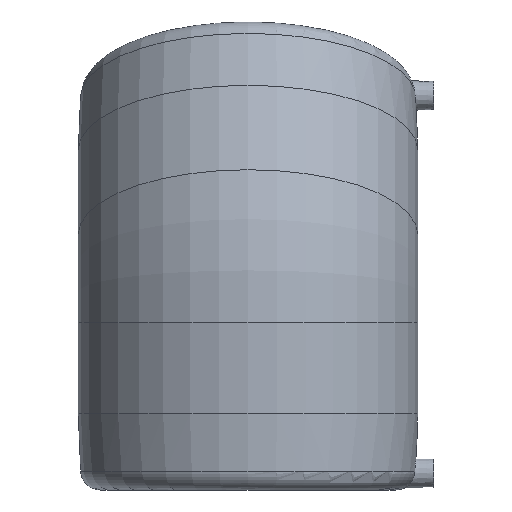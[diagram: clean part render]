
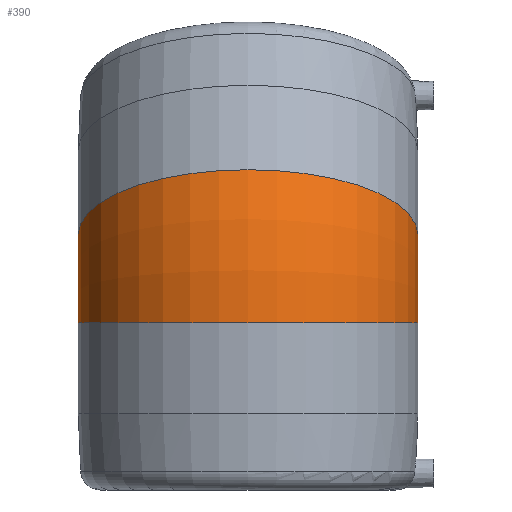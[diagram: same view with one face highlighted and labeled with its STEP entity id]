
A CAD part, left-side view. The second image highlights one B-rep face of the part: STEP entity #390.
In plain terms, the highlighted toroidal (fillet/blend) face has major radius 150.82 mm and minor radius 111.5 mm.
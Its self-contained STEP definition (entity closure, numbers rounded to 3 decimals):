
#23=TOROIDAL_SURFACE('',#458,150.82,111.5);
#111=ORIENTED_EDGE('',*,*,#159,.T.);
#112=ORIENTED_EDGE('',*,*,#161,.F.);
#159=EDGE_CURVE('',#196,#196,#224,.F.);
#161=EDGE_CURVE('',#198,#198,#226,.F.);
#196=VERTEX_POINT('',#751);
#198=VERTEX_POINT('',#757);
#224=CIRCLE('',#455,111.5);
#226=CIRCLE('',#459,111.5);
#277=EDGE_LOOP('',(#111));
#278=EDGE_LOOP('',(#112));
#338=FACE_BOUND('',#277,.T.);
#339=FACE_BOUND('',#278,.T.);
#390=ADVANCED_FACE('',(#338,#339),#23,.T.);
#455=AXIS2_PLACEMENT_3D('',#750,#562,#563);
#458=AXIS2_PLACEMENT_3D('',#755,#568,#569);
#459=AXIS2_PLACEMENT_3D('',#756,#570,#571);
#562=DIRECTION('',(0.,0.,-1.));
#563=DIRECTION('',(1.,0.,0.));
#568=DIRECTION('',(0.,1.,0.));
#569=DIRECTION('',(0.,0.,1.));
#570=DIRECTION('',(-0.383,0.,-0.924));
#571=DIRECTION('',(0.924,0.,-0.383));
#750=CARTESIAN_POINT('',(0.,0.,-30.));
#751=CARTESIAN_POINT('',(111.5,0.,-30.));
#755=CARTESIAN_POINT('',(150.82,0.,-30.));
#756=CARTESIAN_POINT('',(11.481,0.,27.716));
#757=CARTESIAN_POINT('',(114.493,0.,-14.953));
